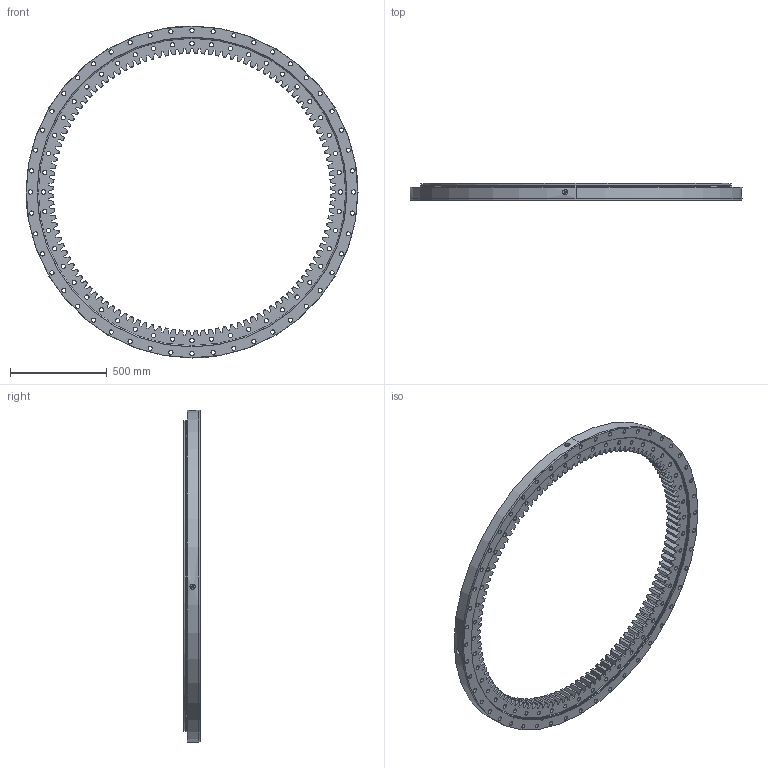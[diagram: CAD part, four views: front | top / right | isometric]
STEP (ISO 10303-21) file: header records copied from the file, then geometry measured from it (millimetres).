
FILE_DESCRIPTION (( 'STEP AP214' ), '1' );
FILE_NAME ('B2130-1-1712AA.STEP', '2022-11-24T06:55:18', ( '' ), ( '' ), 'SwSTEP 2.0', 'SolidWorks 2020', '' );
FILE_SCHEMA (( 'AUTOMOTIVE_DESIGN' ));
Length unit declared in the file: millimetre
Products named in the file (1): B2130-1-1712AA
Bounding box: 1712 x 87 x 1712 mm (x, y, z)
Volume: 43411120.9 mm3; surface area: 3936900.2 mm2
Topology: 4 solids, 4 shells, 998 faces, 2906 edges, 1936 vertices
Faces by surface type: plane 388, cylinder 362, cone 248
Entity records: 34531 total; most frequent: CARTESIAN_POINT 8141, ORIENTED_EDGE 5812, DIRECTION 5144, EDGE_CURVE 2906, AXIS2_PLACEMENT_3D 1967, VERTEX_POINT 1936, EDGE_LOOP 1218, LINE 1210
